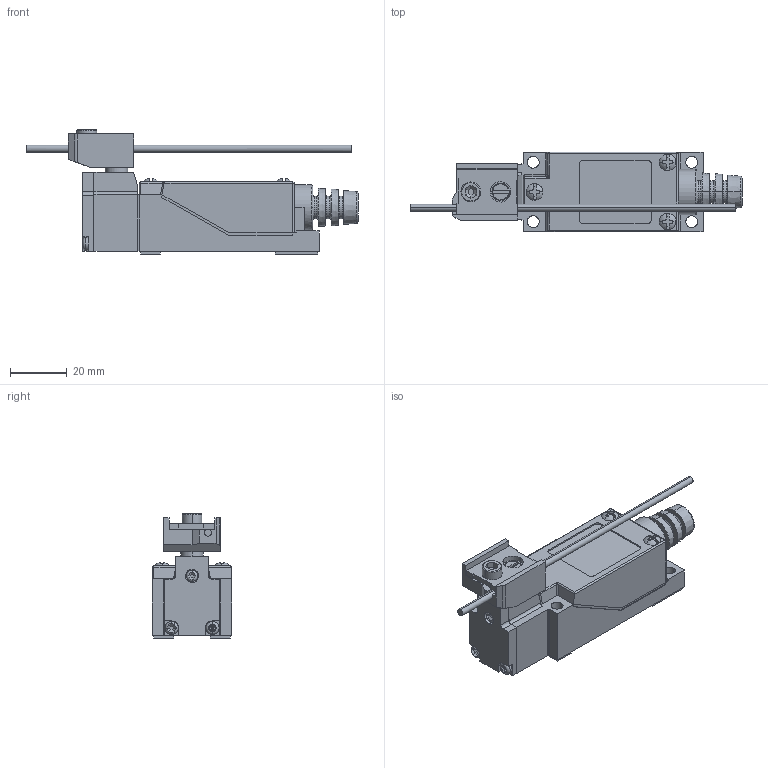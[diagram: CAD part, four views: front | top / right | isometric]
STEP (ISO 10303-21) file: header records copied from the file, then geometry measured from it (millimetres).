
FILE_DESCRIPTION(('STEP AP203'), '1');
FILE_NAME('Korpus-7.stp', '2014-07-04T09:59:24', ('UNSPECIFIED'), ('UNSPECIFIED'), 'ASCON STEP Converter 1.0', 'Kompas 3D', '');
FILE_SCHEMA(('CONFIG_CONTROL_DESIGN'));
Length unit declared in the file: millimetre
Bounding box: 117.25 x 28 x 43.93 mm (x, y, z)
Volume: 653.4 mm3; surface area: 16121.3 mm2
Topology: 1 solids, 2 shells, 406 faces, 1046 edges, 664 vertices
Faces by surface type: plane 280, cylinder 71, torus 26, cone 16, sphere 11, bspline 2
Full cylindrical faces by diameter (mm): 16 x1
Entity records: 12626 total; most frequent: CARTESIAN_POINT 3061, ORIENTED_EDGE 2075, DIRECTION 1836, EDGE_CURVE 1039, LINE 696, VECTOR 696, VERTEX_POINT 664, AXIS2_PLACEMENT_3D 570
